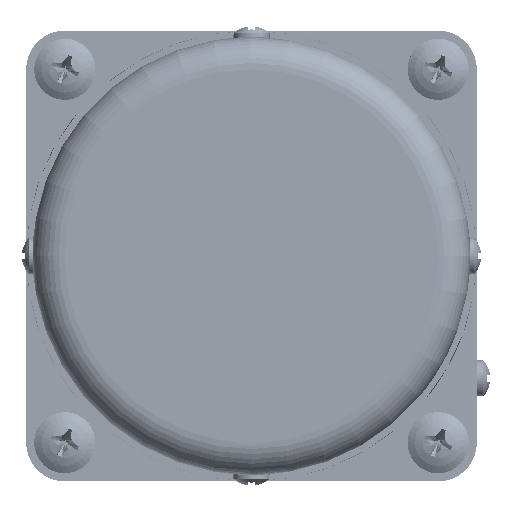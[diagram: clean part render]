
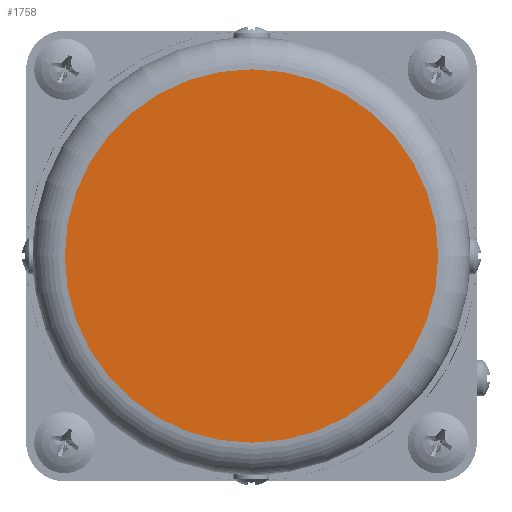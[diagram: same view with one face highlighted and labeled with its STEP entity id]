
A CAD part, left-side view. The second image highlights one B-rep face of the part: STEP entity #1758.
In plain terms, the highlighted planar face has unit normal (-1, 0, 0).
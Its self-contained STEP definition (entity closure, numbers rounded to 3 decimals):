
#1149=FACE_OUTER_BOUND('',#2685,.T.);
#1389=PLANE('',#6630);
#1758=ADVANCED_FACE('',(#1149),#1389,.T.);
#2685=EDGE_LOOP('',(#3735));
#3735=ORIENTED_EDGE('',*,*,#5638,.T.);
#4922=VERTEX_POINT('',#69814);
#5638=EDGE_CURVE('',#4922,#4922,#6198,.T.);
#6198=CIRCLE('',#6629,29.);
#6629=AXIS2_PLACEMENT_3D('',#69813,#7551,#7552);
#6630=AXIS2_PLACEMENT_3D('',#69815,#7553,#7554);
#7551=DIRECTION('',(-1.,0.,0.));
#7552=DIRECTION('',(0.,0.,-1.));
#7553=DIRECTION('',(-1.,0.,0.));
#7554=DIRECTION('',(0.,0.,-1.));
#69813=CARTESIAN_POINT('',(-123.,0.,0.));
#69814=CARTESIAN_POINT('',(-123.,0.,-29.));
#69815=CARTESIAN_POINT('',(-123.,0.,0.));
